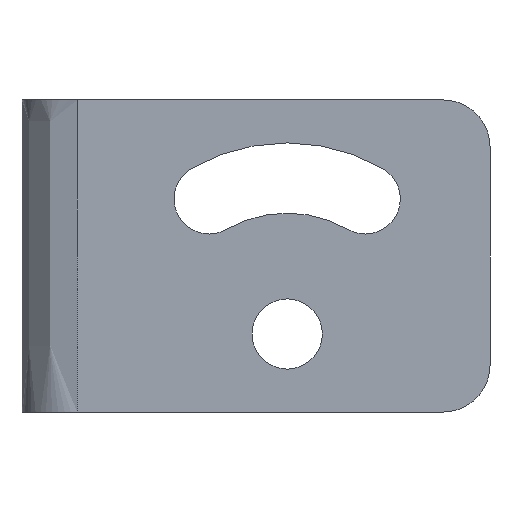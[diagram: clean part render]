
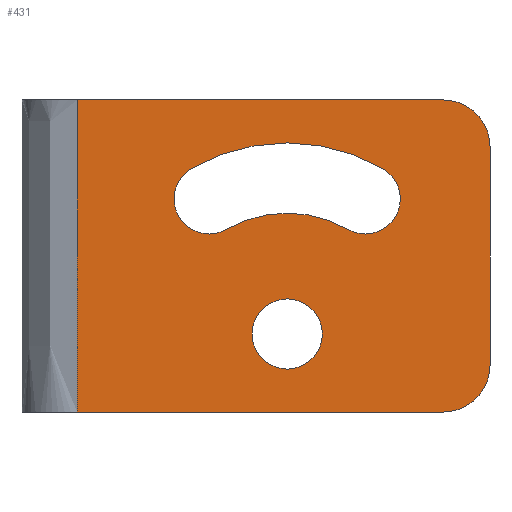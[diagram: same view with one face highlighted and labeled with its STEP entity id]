
A CAD part, front view. The second image highlights one B-rep face of the part: STEP entity #431.
In plain terms, the highlighted planar face has unit normal (0, -1, 0).
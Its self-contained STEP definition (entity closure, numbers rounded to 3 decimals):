
#132=CARTESIAN_POINT('',(359.095,471.247,5.0));
#133=VERTEX_POINT('',#132);
#149=CARTESIAN_POINT('',(354.595,471.247,5.0));
#150=VERTEX_POINT('',#149);
#157=CARTESIAN_POINT('',(356.845,471.247,5.0));
#158=DIRECTION('',(0.0,1.0,0.0));
#159=DIRECTION('',(1.0,0.0,0.0));
#160=AXIS2_PLACEMENT_3D('',#157,#158,#159);
#161=CIRCLE('',#160,2.25);
#162=EDGE_CURVE('',#133,#150,#161,.T.);
#214=CARTESIAN_POINT('',(369.845,471.247,3.0));
#215=VERTEX_POINT('',#214);
#216=CARTESIAN_POINT('',(366.845,471.247,0.0));
#217=VERTEX_POINT('',#216);
#218=CARTESIAN_POINT('',(366.845,471.247,3.0));
#219=DIRECTION('',(0.0,1.,0.0));
#220=DIRECTION('',(0.707,0.0,-0.707));
#221=AXIS2_PLACEMENT_3D('',#218,#219,#220);
#222=CIRCLE('',#221,3.0);
#223=EDGE_CURVE('',#215,#217,#222,.T.);
#257=CARTESIAN_POINT('',(343.38,471.247,0.0));
#258=VERTEX_POINT('',#257);
#259=CARTESIAN_POINT('',(366.845,471.247,0.0));
#260=DIRECTION('',(-1.0,0.0,0.0));
#261=VECTOR('',#260,23.464);
#262=LINE('',#259,#261);
#263=EDGE_CURVE('',#217,#258,#262,.T.);
#328=CARTESIAN_POINT('',(370.845,471.247,0.0));
#329=DIRECTION('',(0.0,-1.0,0.0));
#330=DIRECTION('',(0.0,0.0,-1.0));
#331=AXIS2_PLACEMENT_3D('',#328,#329,#330);
#332=PLANE('',#331);
#333=ORIENTED_EDGE('',*,*,#223,.F.);
#334=CARTESIAN_POINT('',(369.845,471.247,17.0));
#335=VERTEX_POINT('',#334);
#336=CARTESIAN_POINT('',(369.845,471.247,3.0));
#337=DIRECTION('',(0.0,0.0,1.0));
#338=VECTOR('',#337,14.0);
#339=LINE('',#336,#338);
#340=EDGE_CURVE('',#215,#335,#339,.T.);
#341=ORIENTED_EDGE('',*,*,#340,.T.);
#342=CARTESIAN_POINT('',(366.845,471.247,20.0));
#343=VERTEX_POINT('',#342);
#344=CARTESIAN_POINT('',(366.845,471.247,17.0));
#345=DIRECTION('',(0.0,1.,0.0));
#346=DIRECTION('',(0.707,0.0,0.707));
#347=AXIS2_PLACEMENT_3D('',#344,#345,#346);
#348=CIRCLE('',#347,3.0);
#349=EDGE_CURVE('',#343,#335,#348,.T.);
#350=ORIENTED_EDGE('',*,*,#349,.F.);
#351=CARTESIAN_POINT('',(343.38,471.247,20.0));
#352=VERTEX_POINT('',#351);
#353=CARTESIAN_POINT('',(366.845,471.247,20.0));
#354=DIRECTION('',(-1.0,0.0,0.0));
#355=VECTOR('',#354,23.464);
#356=LINE('',#353,#355);
#357=EDGE_CURVE('',#343,#352,#356,.T.);
#358=ORIENTED_EDGE('',*,*,#357,.T.);
#359=CARTESIAN_POINT('',(343.38,471.247,0.0));
#360=CARTESIAN_POINT('',(343.38,471.247,0.458));
#361=CARTESIAN_POINT('',(343.38,471.247,0.917));
#362=CARTESIAN_POINT('',(343.38,471.247,2.333));
#363=CARTESIAN_POINT('',(343.38,471.247,3.292));
#364=CARTESIAN_POINT('',(343.38,471.247,5.208));
#365=CARTESIAN_POINT('',(343.38,471.247,6.167));
#366=CARTESIAN_POINT('',(343.38,471.247,8.083));
#367=CARTESIAN_POINT('',(343.38,471.247,9.042));
#368=CARTESIAN_POINT('',(343.38,471.247,10.958));
#369=CARTESIAN_POINT('',(343.38,471.247,11.917));
#370=CARTESIAN_POINT('',(343.38,471.247,13.833));
#371=CARTESIAN_POINT('',(343.38,471.247,14.792));
#372=CARTESIAN_POINT('',(343.38,471.247,16.708));
#373=CARTESIAN_POINT('',(343.38,471.247,17.667));
#374=CARTESIAN_POINT('',(343.38,471.247,19.083));
#375=CARTESIAN_POINT('',(343.38,471.247,19.542));
#376=CARTESIAN_POINT('',(343.38,471.247,20.0));
#377=B_SPLINE_CURVE_WITH_KNOTS('',3,(#359,#360,#361,#362,#363,#364,#365,#366,#367,#368,#369,#370,#371,#372,#373,#374,#375,#376),.UNSPECIFIED.,.F.,.U.,(4,2,2,2,2,2,2,2,4),(0.,1.375,4.25,7.125,10.0,12.875,15.75,18.625,20.0),.UNSPECIFIED.);
#378=EDGE_CURVE('',#258,#352,#377,.T.);
#379=ORIENTED_EDGE('',*,*,#378,.F.);
#380=ORIENTED_EDGE('',*,*,#263,.F.);
#381=EDGE_LOOP('',(#333,#341,#350,#358,#379,#380));
#382=FACE_OUTER_BOUND('',#381,.T.);
#383=CARTESIAN_POINT('',(350.72,471.247,15.609));
#384=VERTEX_POINT('',#383);
#385=CARTESIAN_POINT('',(362.97,471.247,15.609));
#386=VERTEX_POINT('',#385);
#387=CARTESIAN_POINT('',(356.845,471.247,5.0));
#388=DIRECTION('',(0.0,1.0,0.0));
#389=DIRECTION('',(1.0,0.0,0.0));
#390=AXIS2_PLACEMENT_3D('',#387,#388,#389);
#391=CIRCLE('',#390,12.25);
#392=EDGE_CURVE('',#384,#386,#391,.T.);
#393=ORIENTED_EDGE('',*,*,#392,.T.);
#394=CARTESIAN_POINT('',(360.72,471.247,11.712));
#395=VERTEX_POINT('',#394);
#396=CARTESIAN_POINT('',(361.845,471.247,13.66));
#397=DIRECTION('',(0.0,1.0,0.0));
#398=DIRECTION('',(1.0,0.0,0.0));
#399=AXIS2_PLACEMENT_3D('',#396,#397,#398);
#400=CIRCLE('',#399,2.25);
#401=EDGE_CURVE('',#386,#395,#400,.T.);
#402=ORIENTED_EDGE('',*,*,#401,.T.);
#403=CARTESIAN_POINT('',(352.97,471.247,11.712));
#404=VERTEX_POINT('',#403);
#405=CARTESIAN_POINT('',(356.845,471.247,5.0));
#406=DIRECTION('',(0.0,-1.0,0.0));
#407=DIRECTION('',(1.0,0.0,0.0));
#408=AXIS2_PLACEMENT_3D('',#405,#406,#407);
#409=CIRCLE('',#408,7.75);
#410=EDGE_CURVE('',#395,#404,#409,.T.);
#411=ORIENTED_EDGE('',*,*,#410,.T.);
#412=CARTESIAN_POINT('',(351.845,471.247,13.66));
#413=DIRECTION('',(0.0,1.0,0.0));
#414=DIRECTION('',(1.0,0.0,0.0));
#415=AXIS2_PLACEMENT_3D('',#412,#413,#414);
#416=CIRCLE('',#415,2.25);
#417=EDGE_CURVE('',#404,#384,#416,.T.);
#418=ORIENTED_EDGE('',*,*,#417,.T.);
#419=EDGE_LOOP('',(#393,#402,#411,#418));
#420=FACE_BOUND('',#419,.T.);
#421=CARTESIAN_POINT('',(356.845,471.247,5.0));
#422=DIRECTION('',(0.0,1.0,0.0));
#423=DIRECTION('',(1.0,0.0,0.0));
#424=AXIS2_PLACEMENT_3D('',#421,#422,#423);
#425=CIRCLE('',#424,2.25);
#426=EDGE_CURVE('',#150,#133,#425,.T.);
#427=ORIENTED_EDGE('',*,*,#426,.T.);
#428=ORIENTED_EDGE('',*,*,#162,.T.);
#429=EDGE_LOOP('',(#427,#428));
#430=FACE_BOUND('',#429,.T.);
#431=ADVANCED_FACE('',(#382,#420,#430),#332,.T.);
